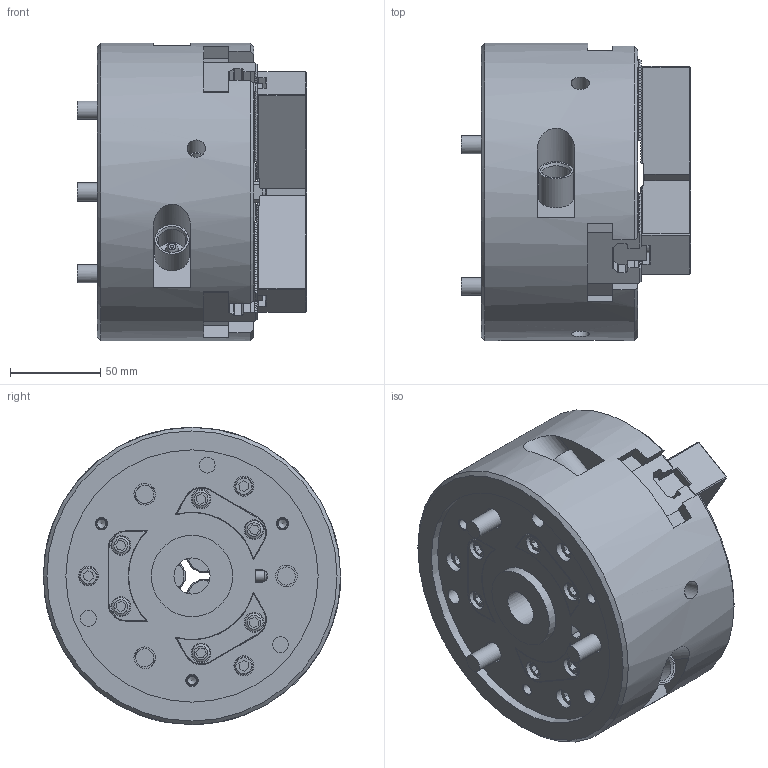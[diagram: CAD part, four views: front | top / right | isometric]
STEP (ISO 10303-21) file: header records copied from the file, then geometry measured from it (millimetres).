
FILE_DESCRIPTION (( 'STEP AP214' ), '1' );
FILE_NAME ('BL-206_61P264443-3_OC.STEP', '2020-03-27T06:51:38', ( '' ), ( '' ), 'SwSTEP 2.0', 'SolidWorks 2017', '' );
FILE_SCHEMA (( 'AUTOMOTIVE_DESIGN' ));
Length unit declared in the file: millimetre
Products named in the file (18): 61P447483-2_俿僫僢僩_b_g; B傾僫僣僉 M10亊250_~25; 61P319805-3_ソフトジョー_W_‡_[; 61P319805-3_ソフトジョー_W_‡_[_ﾃﾞﾌｫﾙﾄ_ATI≪UA; Part4^61P264443-3_僋儈僞僥_^_e_棉太倌I佱UA; BL-206_61P264443-3_OC; Part4^61P264443-3_クミタテ_^_e; 61P447483-2_俿僫僢僩_b_g_棉太倌I佱UA; B傾僫僣僉 M10亊250_~25_棉太倌TI佱UA
Assembly tree (13 placements, depth 2):
  61P447483-2_俿僫僢僩_b_g
  B傾僫僣僉 M10亊250_~25
  61P319805-3_ソフトジョー_W_‡_[
  61P319805-3_ソフトジョー_W_‡_[
  B傾僫僣僉 M10亊250_~25
Bounding box: 127.2 x 165 x 165 mm (x, y, z)
Volume: 1774736.6 mm3; surface area: 199583.6 mm2
Topology: 13 solids, 19 shells, 2915 faces, 8082 edges, 5333 vertices
Faces by surface type: plane 2108, cylinder 604, bspline 98, cone 80, torus 18, sphere 7
Full cylindrical faces by diameter (mm): 1.9 x3, 5 x3, 6 x10, 6.6 x6, 8.5 x3, 8.8 x3, 9 x3, 10 x30, 11 x15, 12 x3, 15 x3, 16 x9, 17 x9, 19 x3, 20 x1, 28 x1, 30.6 x1, 38.5 x1, 45 x1, 140 x1, 165 x1
Entity records: 65150 total; most frequent: CARTESIAN_POINT 16449, ORIENTED_EDGE 10502, DIRECTION 9002, EDGE_CURVE 5251, LINE 4198, VECTOR 4198, VERTEX_POINT 3534, AXIS2_PLACEMENT_3D 2402
